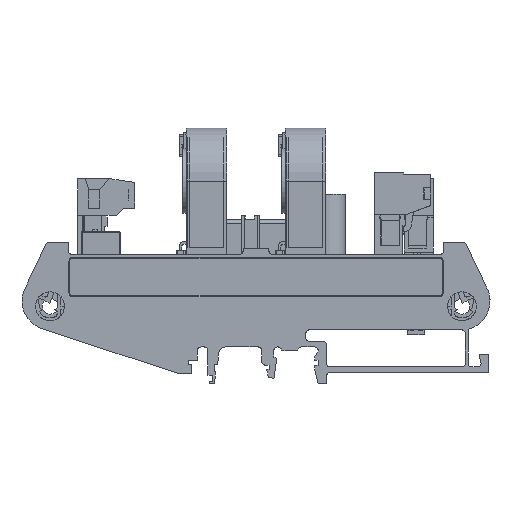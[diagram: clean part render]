
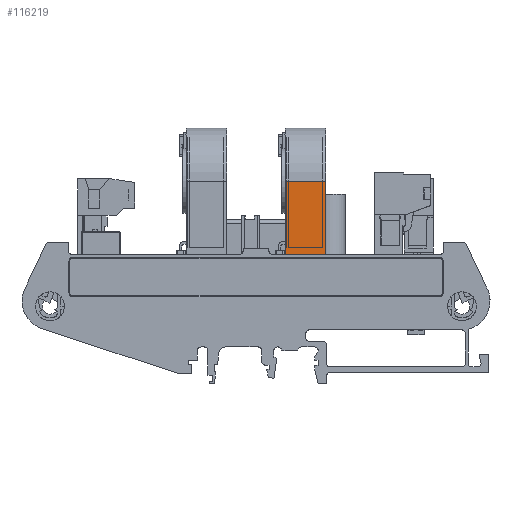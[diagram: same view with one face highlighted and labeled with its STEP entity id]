
A CAD part, left-side view. The second image highlights one B-rep face of the part: STEP entity #116219.
In plain terms, the highlighted planar face has unit normal (-1, 0, 0) as drawn and (1, 0, 0) by its records, which use the part's own axes.
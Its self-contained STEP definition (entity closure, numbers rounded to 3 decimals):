
#107280 = PLANE('',#107281);
#107281 = AXIS2_PLACEMENT_3D('',#107282,#107283,#107284);
#107282 = CARTESIAN_POINT('',(0.,5.,-1.));
#107283 = DIRECTION('',(0.,0.,1.));
#107284 = DIRECTION('',(1.,0.,-0.));
#110403 = VERTEX_POINT('',#110404);
#110404 = CARTESIAN_POINT('',(39.,5.,-1.));
#110418 = PLANE('',#110419);
#110419 = AXIS2_PLACEMENT_3D('',#110420,#110421,#110422);
#110420 = CARTESIAN_POINT('',(0.,5.,-12.));
#110421 = DIRECTION('',(0.,-1.,0.));
#110422 = DIRECTION('',(1.,0.,0.));
#110622 = VERTEX_POINT('',#110623);
#110623 = CARTESIAN_POINT('',(39.,25.,-1.));
#110638 = CYLINDRICAL_SURFACE('',#110639,14.5);
#110639 = AXIS2_PLACEMENT_3D('',#110640,#110641,#110642);
#110640 = CARTESIAN_POINT('',(24.5,25.,-12.));
#110641 = DIRECTION('',(0.,0.,1.));
#110642 = DIRECTION('',(1.,0.,-0.));
#110650 = EDGE_CURVE('',#110403,#110622,#110651,.T.);
#110651 = SURFACE_CURVE('',#110652,(#110656,#110663),.PCURVE_S1.);
#110652 = LINE('',#110653,#110654);
#110653 = CARTESIAN_POINT('',(39.,5.,-1.));
#110654 = VECTOR('',#110655,1.);
#110655 = DIRECTION('',(0.,1.,0.));
#110656 = PCURVE('',#107280,#110657);
#110657 = DEFINITIONAL_REPRESENTATION('',(#110658),#110662);
#110658 = LINE('',#110659,#110660);
#110659 = CARTESIAN_POINT('',(39.,0.));
#110660 = VECTOR('',#110661,1.);
#110661 = DIRECTION('',(0.,1.));
#110662 = ( GEOMETRIC_REPRESENTATION_CONTEXT(2) 
PARAMETRIC_REPRESENTATION_CONTEXT() REPRESENTATION_CONTEXT('2D SPACE',''
  ) );
#110663 = PCURVE('',#110664,#110669);
#110664 = PLANE('',#110665);
#110665 = AXIS2_PLACEMENT_3D('',#110666,#110667,#110668);
#110666 = CARTESIAN_POINT('',(39.,5.,-12.));
#110667 = DIRECTION('',(1.,0.,0.));
#110668 = DIRECTION('',(-0.,1.,0.));
#110669 = DEFINITIONAL_REPRESENTATION('',(#110670),#110674);
#110670 = LINE('',#110671,#110672);
#110671 = CARTESIAN_POINT('',(0.,11.));
#110672 = VECTOR('',#110673,1.);
#110673 = DIRECTION('',(1.,0.));
#110674 = ( GEOMETRIC_REPRESENTATION_CONTEXT(2) 
PARAMETRIC_REPRESENTATION_CONTEXT() REPRESENTATION_CONTEXT('2D SPACE',''
  ) );
#115622 = EDGE_CURVE('',#115623,#110403,#115625,.T.);
#115623 = VERTEX_POINT('',#115624);
#115624 = CARTESIAN_POINT('',(39.,5.,-9.4));
#115625 = SURFACE_CURVE('',#115626,(#115630,#115637),.PCURVE_S1.);
#115626 = LINE('',#115627,#115628);
#115627 = CARTESIAN_POINT('',(39.,5.,-9.4));
#115628 = VECTOR('',#115629,1.);
#115629 = DIRECTION('',(0.,0.,1.));
#115630 = PCURVE('',#110418,#115631);
#115631 = DEFINITIONAL_REPRESENTATION('',(#115632),#115636);
#115632 = LINE('',#115633,#115634);
#115633 = CARTESIAN_POINT('',(39.,2.6));
#115634 = VECTOR('',#115635,1.);
#115635 = DIRECTION('',(0.,1.));
#115636 = ( GEOMETRIC_REPRESENTATION_CONTEXT(2) 
PARAMETRIC_REPRESENTATION_CONTEXT() REPRESENTATION_CONTEXT('2D SPACE',''
  ) );
#115637 = PCURVE('',#110664,#115638);
#115638 = DEFINITIONAL_REPRESENTATION('',(#115639),#115643);
#115639 = LINE('',#115640,#115641);
#115640 = CARTESIAN_POINT('',(0.,2.6));
#115641 = VECTOR('',#115642,1.);
#115642 = DIRECTION('',(0.,1.));
#115643 = ( GEOMETRIC_REPRESENTATION_CONTEXT(2) 
PARAMETRIC_REPRESENTATION_CONTEXT() REPRESENTATION_CONTEXT('2D SPACE',''
  ) );
#115661 = PLANE('',#115662);
#115662 = AXIS2_PLACEMENT_3D('',#115663,#115664,#115665);
#115663 = CARTESIAN_POINT('',(39.,5.,-9.4));
#115664 = DIRECTION('',(0.,0.,1.));
#115665 = DIRECTION('',(-1.,0.,0.));
#115715 = PLANE('',#115716);
#115716 = AXIS2_PLACEMENT_3D('',#115717,#115718,#115719);
#115717 = CARTESIAN_POINT('',(0.,5.,-12.));
#115718 = DIRECTION('',(0.,0.,1.));
#115719 = DIRECTION('',(1.,0.,-0.));
#116175 = EDGE_CURVE('',#116176,#110622,#116178,.T.);
#116176 = VERTEX_POINT('',#116177);
#116177 = CARTESIAN_POINT('',(39.,25.,-12.));
#116178 = SURFACE_CURVE('',#116179,(#116183,#116190),.PCURVE_S1.);
#116179 = LINE('',#116180,#116181);
#116180 = CARTESIAN_POINT('',(39.,25.,-12.));
#116181 = VECTOR('',#116182,1.);
#116182 = DIRECTION('',(0.,0.,1.));
#116183 = PCURVE('',#110638,#116184);
#116184 = DEFINITIONAL_REPRESENTATION('',(#116185),#116189);
#116185 = LINE('',#116186,#116187);
#116186 = CARTESIAN_POINT('',(0.,0.));
#116187 = VECTOR('',#116188,1.);
#116188 = DIRECTION('',(0.,1.));
#116189 = ( GEOMETRIC_REPRESENTATION_CONTEXT(2) 
PARAMETRIC_REPRESENTATION_CONTEXT() REPRESENTATION_CONTEXT('2D SPACE',''
  ) );
#116190 = PCURVE('',#110664,#116191);
#116191 = DEFINITIONAL_REPRESENTATION('',(#116192),#116196);
#116192 = LINE('',#116193,#116194);
#116193 = CARTESIAN_POINT('',(20.,0.));
#116194 = VECTOR('',#116195,1.);
#116195 = DIRECTION('',(0.,1.));
#116196 = ( GEOMETRIC_REPRESENTATION_CONTEXT(2) 
PARAMETRIC_REPRESENTATION_CONTEXT() REPRESENTATION_CONTEXT('2D SPACE',''
  ) );
#116219 = ADVANCED_FACE('',(#116220),#110664,.T.);
#116220 = FACE_BOUND('',#116221,.F.);
#116221 = EDGE_LOOP('',(#116222,#116245,#116273,#116294,#116295,#116296)
  );
#116222 = ORIENTED_EDGE('',*,*,#116223,.T.);
#116223 = EDGE_CURVE('',#116176,#116224,#116226,.T.);
#116224 = VERTEX_POINT('',#116225);
#116225 = CARTESIAN_POINT('',(39.,3.7,-12.));
#116226 = SURFACE_CURVE('',#116227,(#116231,#116238),.PCURVE_S1.);
#116227 = LINE('',#116228,#116229);
#116228 = CARTESIAN_POINT('',(39.,25.,-12.));
#116229 = VECTOR('',#116230,1.);
#116230 = DIRECTION('',(0.,-1.,0.));
#116231 = PCURVE('',#110664,#116232);
#116232 = DEFINITIONAL_REPRESENTATION('',(#116233),#116237);
#116233 = LINE('',#116234,#116235);
#116234 = CARTESIAN_POINT('',(20.,0.));
#116235 = VECTOR('',#116236,1.);
#116236 = DIRECTION('',(-1.,0.));
#116237 = ( GEOMETRIC_REPRESENTATION_CONTEXT(2) 
PARAMETRIC_REPRESENTATION_CONTEXT() REPRESENTATION_CONTEXT('2D SPACE',''
  ) );
#116238 = PCURVE('',#115715,#116239);
#116239 = DEFINITIONAL_REPRESENTATION('',(#116240),#116244);
#116240 = LINE('',#116241,#116242);
#116241 = CARTESIAN_POINT('',(39.,20.));
#116242 = VECTOR('',#116243,1.);
#116243 = DIRECTION('',(0.,-1.));
#116244 = ( GEOMETRIC_REPRESENTATION_CONTEXT(2) 
PARAMETRIC_REPRESENTATION_CONTEXT() REPRESENTATION_CONTEXT('2D SPACE',''
  ) );
#116245 = ORIENTED_EDGE('',*,*,#116246,.T.);
#116246 = EDGE_CURVE('',#116224,#116247,#116249,.T.);
#116247 = VERTEX_POINT('',#116248);
#116248 = CARTESIAN_POINT('',(39.,3.7,-9.4));
#116249 = SURFACE_CURVE('',#116250,(#116254,#116261),.PCURVE_S1.);
#116250 = LINE('',#116251,#116252);
#116251 = CARTESIAN_POINT('',(39.,3.7,-12.));
#116252 = VECTOR('',#116253,1.);
#116253 = DIRECTION('',(0.,0.,1.));
#116254 = PCURVE('',#110664,#116255);
#116255 = DEFINITIONAL_REPRESENTATION('',(#116256),#116260);
#116256 = LINE('',#116257,#116258);
#116257 = CARTESIAN_POINT('',(-1.3,0.));
#116258 = VECTOR('',#116259,1.);
#116259 = DIRECTION('',(0.,1.));
#116260 = ( GEOMETRIC_REPRESENTATION_CONTEXT(2) 
PARAMETRIC_REPRESENTATION_CONTEXT() REPRESENTATION_CONTEXT('2D SPACE',''
  ) );
#116261 = PCURVE('',#116262,#116267);
#116262 = PLANE('',#116263);
#116263 = AXIS2_PLACEMENT_3D('',#116264,#116265,#116266);
#116264 = CARTESIAN_POINT('',(0.,3.7,-12.));
#116265 = DIRECTION('',(0.,-1.,0.));
#116266 = DIRECTION('',(1.,0.,0.));
#116267 = DEFINITIONAL_REPRESENTATION('',(#116268),#116272);
#116268 = LINE('',#116269,#116270);
#116269 = CARTESIAN_POINT('',(39.,0.));
#116270 = VECTOR('',#116271,1.);
#116271 = DIRECTION('',(0.,1.));
#116272 = ( GEOMETRIC_REPRESENTATION_CONTEXT(2) 
PARAMETRIC_REPRESENTATION_CONTEXT() REPRESENTATION_CONTEXT('2D SPACE',''
  ) );
#116273 = ORIENTED_EDGE('',*,*,#116274,.F.);
#116274 = EDGE_CURVE('',#115623,#116247,#116275,.T.);
#116275 = SURFACE_CURVE('',#116276,(#116280,#116287),.PCURVE_S1.);
#116276 = LINE('',#116277,#116278);
#116277 = CARTESIAN_POINT('',(39.,5.,-9.4));
#116278 = VECTOR('',#116279,1.);
#116279 = DIRECTION('',(0.,-1.,0.));
#116280 = PCURVE('',#110664,#116281);
#116281 = DEFINITIONAL_REPRESENTATION('',(#116282),#116286);
#116282 = LINE('',#116283,#116284);
#116283 = CARTESIAN_POINT('',(0.,2.6));
#116284 = VECTOR('',#116285,1.);
#116285 = DIRECTION('',(-1.,0.));
#116286 = ( GEOMETRIC_REPRESENTATION_CONTEXT(2) 
PARAMETRIC_REPRESENTATION_CONTEXT() REPRESENTATION_CONTEXT('2D SPACE',''
  ) );
#116287 = PCURVE('',#115661,#116288);
#116288 = DEFINITIONAL_REPRESENTATION('',(#116289),#116293);
#116289 = LINE('',#116290,#116291);
#116290 = CARTESIAN_POINT('',(0.,0.));
#116291 = VECTOR('',#116292,1.);
#116292 = DIRECTION('',(0.,1.));
#116293 = ( GEOMETRIC_REPRESENTATION_CONTEXT(2) 
PARAMETRIC_REPRESENTATION_CONTEXT() REPRESENTATION_CONTEXT('2D SPACE',''
  ) );
#116294 = ORIENTED_EDGE('',*,*,#115622,.T.);
#116295 = ORIENTED_EDGE('',*,*,#110650,.T.);
#116296 = ORIENTED_EDGE('',*,*,#116175,.F.);
